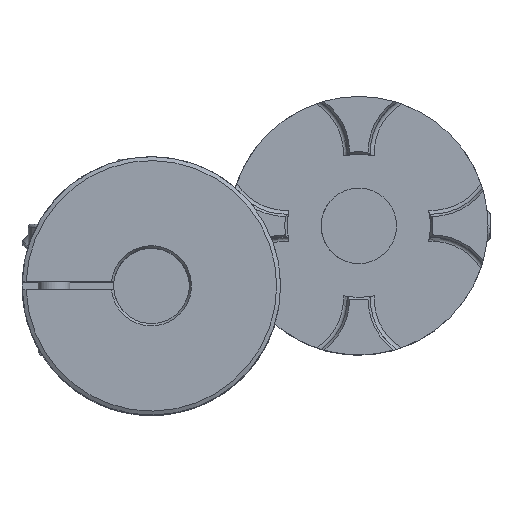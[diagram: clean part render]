
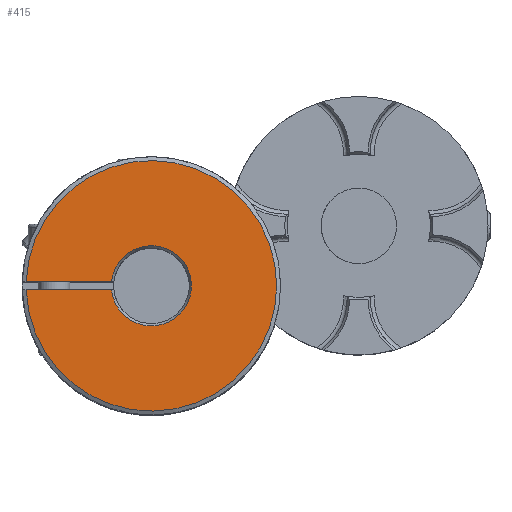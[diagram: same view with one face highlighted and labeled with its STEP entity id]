
A CAD part, top view. The second image highlights one B-rep face of the part: STEP entity #415.
In plain terms, the highlighted planar face has unit normal (0, 0, 1) as drawn and (0, 0, -1) by its records, which use the part's own axes.
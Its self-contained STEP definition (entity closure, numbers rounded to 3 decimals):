
#415 = ADVANCED_FACE( 'NONE', ( #825 ), #826, .F. );
#825 = FACE_OUTER_BOUND( '', #1191, .T. );
#826 = PLANE( '', #1192 );
#1191 = EDGE_LOOP( '', ( #2100, #2101, #2102, #2103 ) );
#1192 = AXIS2_PLACEMENT_3D( '', #2104, #2105, #2106 );
#2100 = ORIENTED_EDGE( '', *, *, #2828, .F. );
#2101 = ORIENTED_EDGE( '', *, *, #2829, .T. );
#2102 = ORIENTED_EDGE( '', *, *, #2830, .F. );
#2103 = ORIENTED_EDGE( '', *, *, #2826, .T. );
#2104 = CARTESIAN_POINT( '', ( 0., 0., 0. ) );
#2105 = DIRECTION( '', ( 0., 0., 1. ) );
#2106 = DIRECTION( '', ( 1., 0., 0. ) );
#2826 = EDGE_CURVE( 'NONE', #3407, #3405, #3408, .T. );
#2828 = EDGE_CURVE( 'NONE', #3410, #3405, #3411, .F. );
#2829 = EDGE_CURVE( 'NONE', #3410, #3412, #3413, .F. );
#2830 = EDGE_CURVE( 'NONE', #3407, #3412, #3414, .F. );
#3405 = VERTEX_POINT( 'NONE', #4272 );
#3407 = VERTEX_POINT( 'NONE', #4277 );
#3408 = CIRCLE( '', #4278, 10.077 );
#3410 = VERTEX_POINT( 'NONE', #4283 );
#3411 = LINE( '', #4284, #4285 );
#3412 = VERTEX_POINT( 'NONE', #4286 );
#3413 = CIRCLE( '', #4287, 31.5 );
#3414 = LINE( '', #4288, #4289 );
#4272 = CARTESIAN_POINT( '', ( -6.383, 7.798, 0. ) );
#4277 = CARTESIAN_POINT( '', ( -7.798, 6.383, 0. ) );
#4278 = AXIS2_PLACEMENT_3D( '', #5254, #5255, #5256 );
#4283 = CARTESIAN_POINT( '', ( -21.556, 22.97, 0. ) );
#4284 = CARTESIAN_POINT( '', ( -31.793, 33.207, 0. ) );
#4285 = VECTOR( '', #5257, 1000. );
#4286 = CARTESIAN_POINT( '', ( -22.97, 21.556, 0. ) );
#4287 = AXIS2_PLACEMENT_3D( '', #5258, #5259, #5260 );
#4288 = CARTESIAN_POINT( '', ( -33.207, 31.793, 0. ) );
#4289 = VECTOR( '', #5261, 1000. );
#5254 = CARTESIAN_POINT( '', ( 0., 0., 0. ) );
#5255 = DIRECTION( '', ( 0., 0., 1. ) );
#5256 = DIRECTION( '', ( 1., 0., 0. ) );
#5257 = DIRECTION( '', ( -0.707, 0.707, 0. ) );
#5258 = CARTESIAN_POINT( '', ( 0., 0., 0. ) );
#5259 = DIRECTION( '', ( 0., 0., 1. ) );
#5260 = DIRECTION( '', ( 1., 0., 0. ) );
#5261 = DIRECTION( '', ( 0.707, -0.707, 0. ) );
